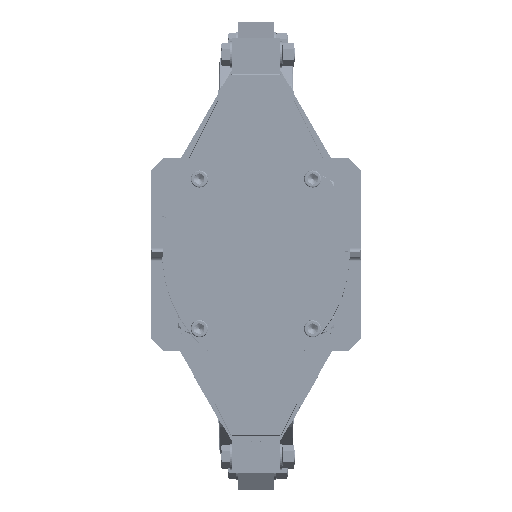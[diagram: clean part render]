
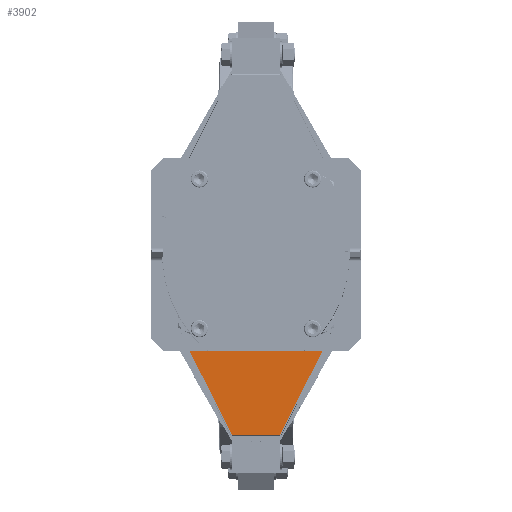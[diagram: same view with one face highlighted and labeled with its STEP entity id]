
A CAD part, top view. The second image highlights one B-rep face of the part: STEP entity #3902.
In plain terms, the highlighted planar face has unit normal (0, 0, 1).
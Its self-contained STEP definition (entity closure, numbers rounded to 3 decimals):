
#3902=ADVANCED_FACE('',(#12262),#12263,.F.);
#12262=FACE_OUTER_BOUND('',#22012,.T.);
#12263=PLANE('',#22013);
#22012=EDGE_LOOP('',(#50873,#50874,#50875,#50876,#50877,#50878));
#22013=AXIS2_PLACEMENT_3D('',#50879,#50880,#50881);
#50873=ORIENTED_EDGE('',*,*,#67855,.T.);
#50874=ORIENTED_EDGE('',*,*,#67871,.F.);
#50875=ORIENTED_EDGE('',*,*,#67894,.F.);
#50876=ORIENTED_EDGE('',*,*,#67895,.T.);
#50877=ORIENTED_EDGE('',*,*,#67885,.T.);
#50878=ORIENTED_EDGE('',*,*,#67896,.F.);
#50879=CARTESIAN_POINT('',(-57.866,-157.152,872.254));
#50880=DIRECTION('',(0.,0.,-1.));
#50881=DIRECTION('',(0.,-1.,0.));
#67855=EDGE_CURVE('',#83955,#83956,#83957,.T.);
#67871=EDGE_CURVE('',#83983,#83956,#83985,.T.);
#67885=EDGE_CURVE('',#84010,#84011,#84012,.T.);
#67894=EDGE_CURVE('',#84025,#83983,#84026,.T.);
#67895=EDGE_CURVE('',#84025,#84010,#84027,.T.);
#67896=EDGE_CURVE('',#83955,#84011,#84028,.T.);
#83955=VERTEX_POINT('',#125077);
#83956=VERTEX_POINT('',#125078);
#83957=LINE('',#125079,#125080);
#83983=VERTEX_POINT('',#125120);
#83985=LINE('',#125123,#125124);
#84010=VERTEX_POINT('',#125162);
#84011=VERTEX_POINT('',#125163);
#84012=LINE('',#125164,#125165);
#84025=VERTEX_POINT('',#125186);
#84026=LINE('',#125187,#125188);
#84027=LINE('',#125189,#125190);
#84028=LINE('',#125191,#125192);
#125077=CARTESIAN_POINT('',(29.481,-219.152,872.254));
#125078=CARTESIAN_POINT('',(86.25,-106.53,872.254));
#125079=CARTESIAN_POINT('',(48.593,-181.237,872.254));
#125080=VECTOR('',#143328,10.);
#125120=CARTESIAN_POINT('',(86.25,-95.152,872.254));
#125123=CARTESIAN_POINT('',(86.25,-219.152,872.254));
#125124=VECTOR('',#143344,10.);
#125162=CARTESIAN_POINT('',(-86.25,-106.53,872.254));
#125163=CARTESIAN_POINT('',(-29.481,-219.152,872.254));
#125164=CARTESIAN_POINT('',(-60.317,-157.979,872.254));
#125165=VECTOR('',#143358,10.);
#125186=CARTESIAN_POINT('',(-86.25,-95.152,872.254));
#125187=CARTESIAN_POINT('',(86.25,-95.152,872.254));
#125188=VECTOR('',#143367,10.);
#125189=CARTESIAN_POINT('',(-86.25,-219.152,872.254));
#125190=VECTOR('',#143368,10.);
#125191=CARTESIAN_POINT('',(29.481,-219.152,872.254));
#125192=VECTOR('',#143369,10.);
#143328=DIRECTION('',(0.45,0.893,0.));
#143344=DIRECTION('',(0.,-1.,0.));
#143358=DIRECTION('',(0.45,-0.893,0.));
#143367=DIRECTION('',(1.,0.,0.));
#143368=DIRECTION('',(0.,-1.,0.));
#143369=DIRECTION('',(-1.,0.,0.));
